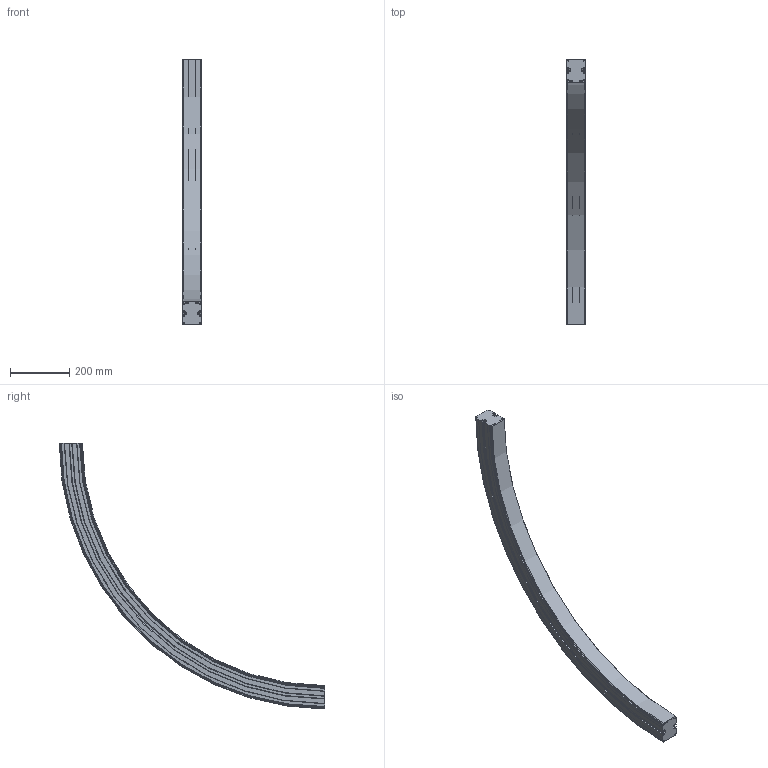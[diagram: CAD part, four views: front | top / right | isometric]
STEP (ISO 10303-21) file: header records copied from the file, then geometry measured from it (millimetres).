
FILE_DESCRIPTION(/* description */ ('VERTIKALKURVA S620 R860'),/* implementation_level */ '2;1');
FILE_NAME(/* name */ '\\carryline.intra\privat\users\mathias\Desktop\Tillfälliga filer\620-5695+620-2000-NER-01.stp',/* time_stamp */ '2018-12-06T07:09:16+01:00',/* author */ ('MD'),/* organization */ ('CARRYLINE'),/* preprocessor_version */ 'ST-DEVELOPER v17',/* originating_system */ 'Autodesk Inventor 2018',/* authorisation */ '');
FILE_SCHEMA (('AP203_CONFIGURATION_CONTROLLED_3D_DESIGN_OF_MECHANICAL_PARTS_AND_ASSEMBLIES_MIM_LF { 1 0 10303 203 3 1 4 }','AUTOMOTIVE_DESIGN { 1 0 10303 214 3 1 1 }'));
Length unit declared in the file: millimetre
Products named in the file (1): 620-5695+620-2000-NER-01
Bounding box: 64 x 898 x 898 mm (x, y, z)
Volume: 6027603.1 mm3; surface area: 653996.2 mm2
Topology: 1 solids, 1 shells, 149 faces, 426 edges, 284 vertices
Faces by surface type: plane 54, cylinder 37, torus 28, cone 16, bspline 14
Entity records: 9536 total; most frequent: CARTESIAN_POINT 5516, ORIENTED_EDGE 852, DIRECTION 836, EDGE_CURVE 426, AXIS2_PLACEMENT_3D 315, VERTEX_POINT 284, LINE 206, VECTOR 206
